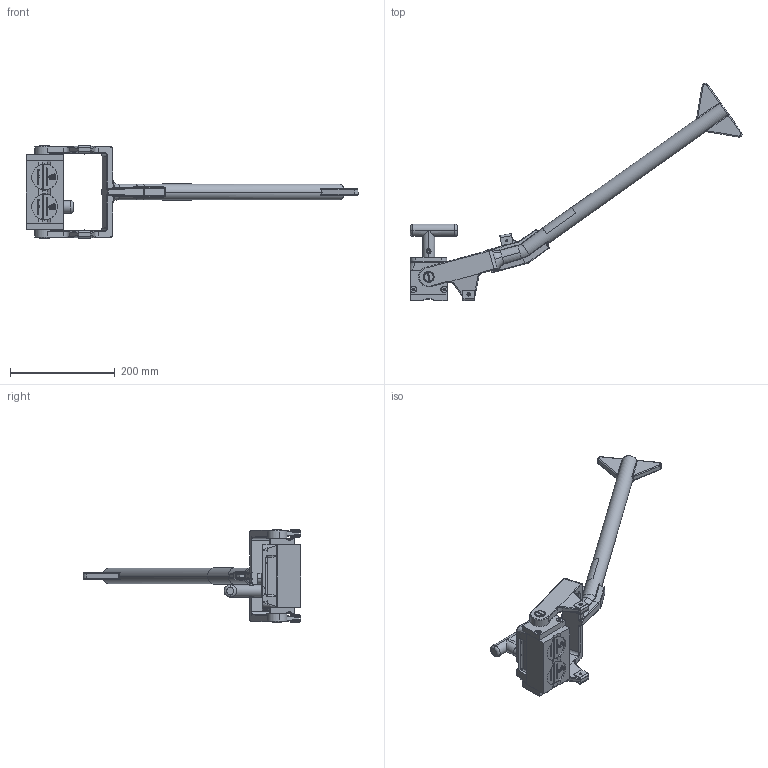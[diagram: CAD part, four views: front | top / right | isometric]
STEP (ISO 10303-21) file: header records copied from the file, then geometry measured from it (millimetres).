
FILE_DESCRIPTION (( 'STEP AP203' ), '1' );
FILE_NAME ('8000935_p.STEP', '2016-03-17T17:57:41', ( '' ), ( '' ), 'SwSTEP 2.0', 'SolidWorks 2013', '' );
FILE_SCHEMA (( 'CONFIG_CONTROL_DESIGN' ));
Length unit declared in the file: millimetre
Products named in the file (1): 8000935_p
Bounding box: 633.08 x 414.1 x 179.01 mm (x, y, z)
Surface area: 209963.8 mm2 (no closed solid volume)
Topology: 0 solids, 66 shells, 748 faces, 3827 edges, 3054 vertices
Faces by surface type: plane 288, cylinder 214, bspline 101, torus 65, cone 60, sphere 20
Entity records: 48208 total; most frequent: CARTESIAN_POINT 20738, ORIENTED_EDGE 5198, DIRECTION 4837, EDGE_CURVE 3805, VERTEX_POINT 3054, VECTOR 1881, LINE 1881, AXIS2_PLACEMENT_3D 1478
